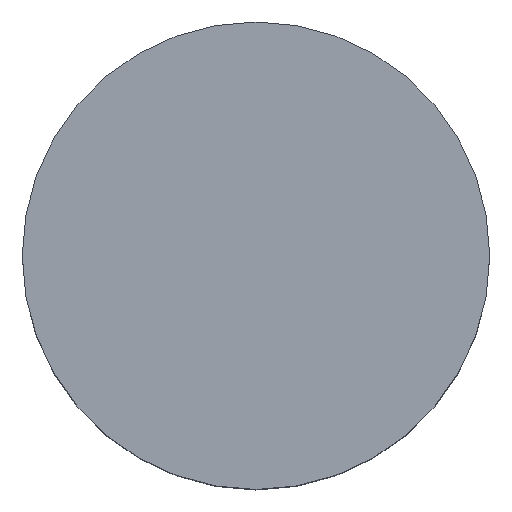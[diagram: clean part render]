
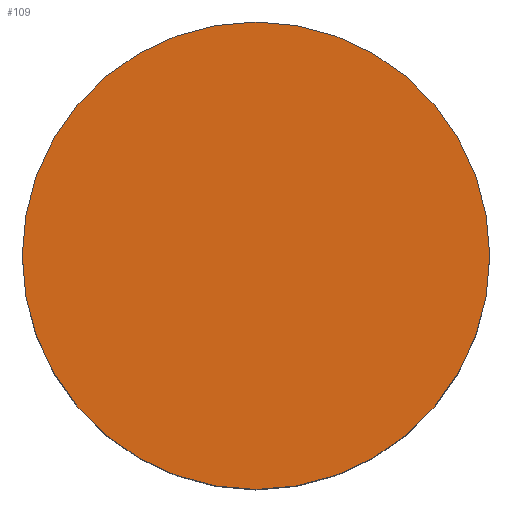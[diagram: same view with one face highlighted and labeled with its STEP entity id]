
A CAD part, top view. The second image highlights one B-rep face of the part: STEP entity #109.
In plain terms, the highlighted planar face has unit normal (0, 0, 1).
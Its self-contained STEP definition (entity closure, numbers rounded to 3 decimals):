
#31 = CYLINDRICAL_SURFACE('',#32,1.55);
#32 = AXIS2_PLACEMENT_3D('',#33,#34,#35);
#33 = CARTESIAN_POINT('',(0.,-16.,9.05));
#34 = DIRECTION('',(-0.,-0.,-1.));
#35 = DIRECTION('',(1.,0.,0.));
#56 = VERTEX_POINT('',#57);
#57 = CARTESIAN_POINT('',(1.55,-16.,11.55));
#78 = EDGE_CURVE('',#56,#56,#79,.T.);
#79 = SURFACE_CURVE('',#80,(#85,#92),.PCURVE_S1.);
#80 = CIRCLE('',#81,1.55);
#81 = AXIS2_PLACEMENT_3D('',#82,#83,#84);
#82 = CARTESIAN_POINT('',(0.,-16.,11.55));
#83 = DIRECTION('',(0.,0.,1.));
#84 = DIRECTION('',(1.,0.,-0.));
#85 = PCURVE('',#31,#86);
#86 = DEFINITIONAL_REPRESENTATION('',(#87),#91);
#87 = LINE('',#88,#89);
#88 = CARTESIAN_POINT('',(6.283,-2.5));
#89 = VECTOR('',#90,1.);
#90 = DIRECTION('',(-1.,0.));
#91 = ( GEOMETRIC_REPRESENTATION_CONTEXT(2) 
PARAMETRIC_REPRESENTATION_CONTEXT() REPRESENTATION_CONTEXT('2D SPACE',''
  ) );
#92 = PCURVE('',#93,#98);
#93 = PLANE('',#94);
#94 = AXIS2_PLACEMENT_3D('',#95,#96,#97);
#95 = CARTESIAN_POINT('',(0.,-16.,11.55));
#96 = DIRECTION('',(0.,0.,1.));
#97 = DIRECTION('',(1.,0.,-0.));
#98 = DEFINITIONAL_REPRESENTATION('',(#99),#103);
#99 = CIRCLE('',#100,1.55);
#100 = AXIS2_PLACEMENT_2D('',#101,#102);
#101 = CARTESIAN_POINT('',(0.,0.));
#102 = DIRECTION('',(1.,0.));
#103 = ( GEOMETRIC_REPRESENTATION_CONTEXT(2) 
PARAMETRIC_REPRESENTATION_CONTEXT() REPRESENTATION_CONTEXT('2D SPACE',''
  ) );
#109 = ADVANCED_FACE('',(#110),#93,.T.);
#110 = FACE_BOUND('',#111,.T.);
#111 = EDGE_LOOP('',(#112));
#112 = ORIENTED_EDGE('',*,*,#78,.T.);
